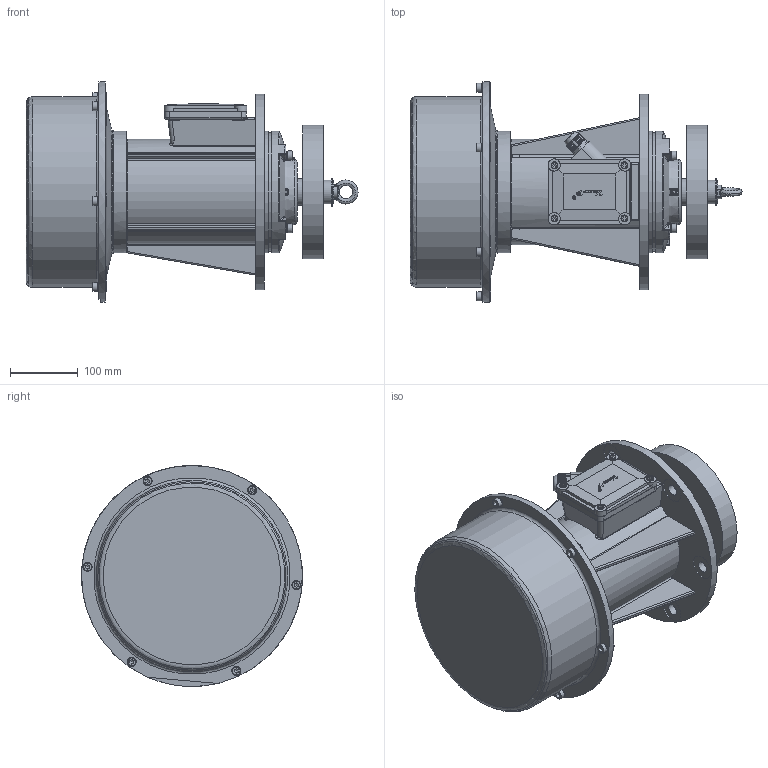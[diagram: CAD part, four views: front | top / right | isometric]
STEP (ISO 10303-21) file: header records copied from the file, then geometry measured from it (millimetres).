
FILE_DESCRIPTION(/* description */ (''),/* implementation_level */ '2;1');
FILE_NAME(/* name */ 'FVM 1600x3-EC.stp',/* time_stamp */ '2026-09-09T14:16:45+03:00',/* author */ ('PC'),/* organization */ (''),/* preprocessor_version */ 'ST-DEVELOPER v20.1',/* originating_system */ 'Autodesk Inventor 2026',/* authorisation */ '');
FILE_SCHEMA (('AUTOMOTIVE_DESIGN { 1 0 10303 214 3 1 1 }'));
Products named in the file (1): FVM 1600x3-EC
Bounding box: 491.3 x 326.81 x 326.96 mm (x, y, z)
Volume: 15534342.5 mm3; surface area: 742199.1 mm2
Topology: 1 solids, 47 shells, 1771 faces, 4637 edges, 2984 vertices
Faces by surface type: plane 1019, cylinder 345, bspline 182, cone 138, torus 77, sphere 10
Full cylindrical faces by diameter (mm): 2.5 x2, 3 x1, 4.134 x1, 4.917 x5, 6 x4, 6.4 x4, 6.647 x21, 8 x14, 8.4 x10, 8.5 x8, 9 x6, 10 x4, 10.2 x4, 13 x10, 14 x1, 15 x1, 16.5 x6, 20 x1, 22 x1, 33 x1, 35 x2, 36.5 x6, 39.9 x1, 40.5 x1, 52 x1, 90 x2, 165 x2, 174 x2, 175 x1, 180 x3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
Entity records: 60307 total; most frequent: CARTESIAN_POINT 16473, ORIENTED_EDGE 9180, DIRECTION 8132, EDGE_CURVE 4590, VERTEX_POINT 2983, AXIS2_PLACEMENT_3D 2748, LINE 2636, VECTOR 2636
